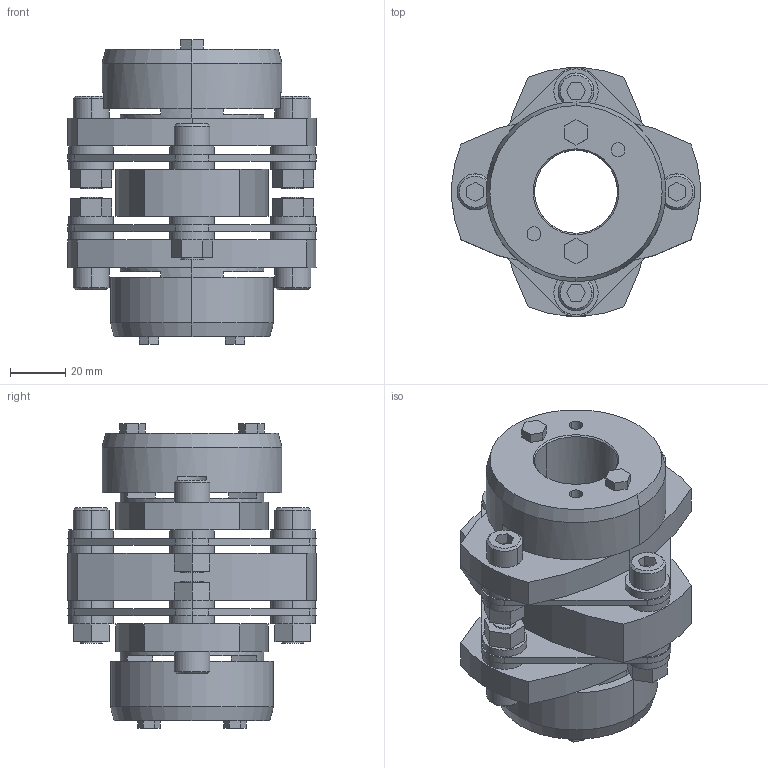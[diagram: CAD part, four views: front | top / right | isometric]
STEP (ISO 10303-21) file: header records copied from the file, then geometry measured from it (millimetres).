
FILE_DESCRIPTION((''),'2;1');
FILE_NAME('LCD-90T7-30×32.stp','2011-09-12T10:02:29',(''),(''),'AutoCAD STEP 2000i','AutoCAD 2000i',', , ');
FILE_SCHEMA(('CONFIG_CONTROL_DESIGN'));
Length unit declared in the file: millimetre
Products named in the file (11): LCD-90T7-30×32; 忣兜1; LC90T7-T032; LC90T7-T035; LC90T7-T030-1; LC90T7-T030; LC90T7-T025-1; LC90T7-T025; LC90T7-T019-1; LC90T7-T019; LCD90-ITA
Assembly tree (10 placements, depth 2):
  LCD-90T7-30×32
    忣兜1
    LC90T7-T032
    LC90T7-T035
    LC90T7-T030-1
    LC90T7-T030
    LC90T7-T025-1
    LC90T7-T025
    LC90T7-T019-1
    LC90T7-T019
    LCD90-ITA
Bounding box: 90 x 89.94 x 110.3 mm (x, y, z)
Volume: 262497.3 mm3; surface area: 73862.8 mm2
Topology: 1 solids, 1 shells, 324 faces, 792 edges, 520 vertices
Faces by surface type: plane 178, cylinder 122, cone 24
Entity records: 9859 total; most frequent: DIRECTION 1750, CARTESIAN_POINT 1647, ORIENTED_EDGE 1584, EDGE_CURVE 792, AXIS2_PLACEMENT_3D 623, VERTEX_POINT 520, VECTOR 504, LINE 504
